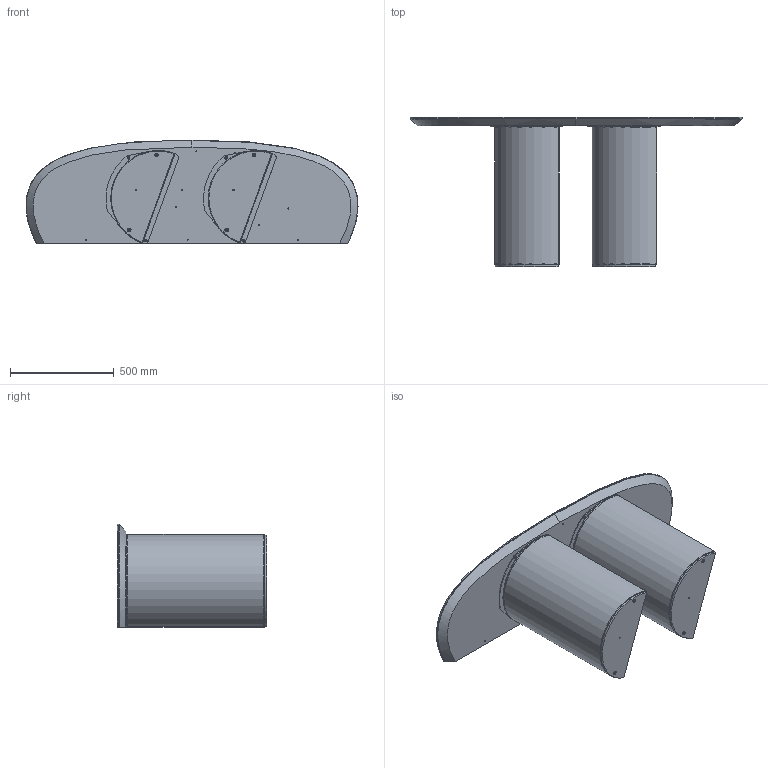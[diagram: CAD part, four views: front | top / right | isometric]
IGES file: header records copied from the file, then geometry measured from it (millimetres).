
Start section: SolidWorks IGES file using analytic representation for surfaces
Global section: file name: Y:\eforma\TECNICO\SOLIDWORKS\E-FORMA\3-CONSOLE\PLAI CONSOLE\02 parts\PL60C_Plai Console_160x50x72h_Ceramic.IGS; native system: SolidWorks 2022; preprocessor: SolidWorks 2022; author: eforma.tech; date: 240806.115638; units: millimetre
Bounding box: 1599.92 x 719 x 500 mm (x, y, z)
Volume: 34403111.2 mm3; surface area: 7256256.1 mm2
Topology: 18 solids, 18 shells, 398 faces, 913 edges, 527 vertices
Faces by surface type: revolution 246, plane 146, bspline 6
